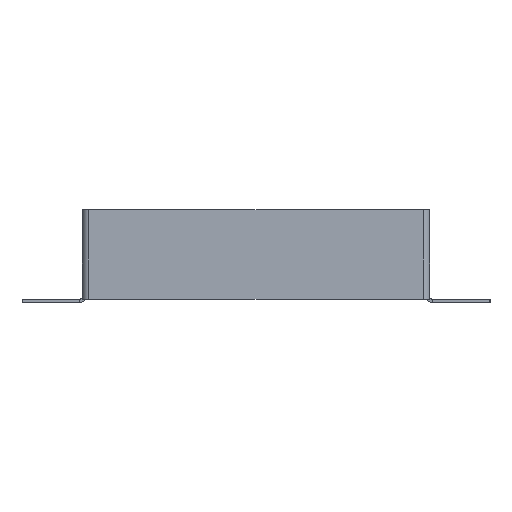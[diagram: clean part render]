
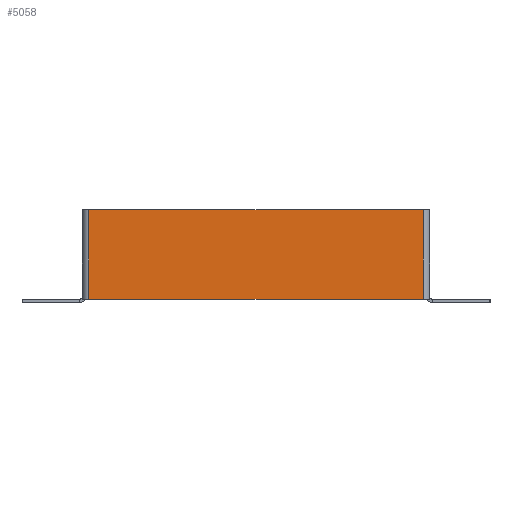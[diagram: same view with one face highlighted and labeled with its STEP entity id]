
A CAD part, front view. The second image highlights one B-rep face of the part: STEP entity #5058.
In plain terms, the highlighted planar face has unit normal (0, -1, 0).
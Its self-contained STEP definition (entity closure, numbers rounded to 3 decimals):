
#379 = VECTOR ( 'NONE', #1589, 1000. ) ;
#699 = DIRECTION ( 'NONE',  ( -1., 0., 0. ) ) ;
#733 = DIRECTION ( 'NONE',  ( 0., 1., 0. ) ) ;
#891 = CARTESIAN_POINT ( 'NONE',  ( -108., -2., -58. ) ) ;
#914 = CARTESIAN_POINT ( 'NONE',  ( 108., -2., -58. ) ) ;
#988 = LINE ( 'NONE', #7908, #3183 ) ;
#1332 = DIRECTION ( 'NONE',  ( 0., 0., 1. ) ) ;
#1589 = DIRECTION ( 'NONE',  ( 0., 0., -1. ) ) ;
#1815 = LINE ( 'NONE', #2436, #2231 ) ;
#2060 = CARTESIAN_POINT ( 'NONE',  ( -110., -2., -58. ) ) ;
#2145 = EDGE_LOOP ( 'NONE', ( #7057, #6376, #4803, #7036 ) ) ;
#2231 = VECTOR ( 'NONE', #6428, 1000. ) ;
#2272 = CARTESIAN_POINT ( 'NONE',  ( -108., -2., 0. ) ) ;
#2436 = CARTESIAN_POINT ( 'NONE',  ( -110., -2., 0. ) ) ;
#3183 = VECTOR ( 'NONE', #1332, 1000. ) ;
#3494 = VERTEX_POINT ( 'NONE', #6728 ) ;
#3659 = VERTEX_POINT ( 'NONE', #891 ) ;
#3735 = LINE ( 'NONE', #2060, #7152 ) ;
#3999 = EDGE_CURVE ( 'NONE', #7990, #3659, #7687, .T. ) ;
#4803 = ORIENTED_EDGE ( 'NONE', *, *, #5583, .T. ) ;
#5058 = ADVANCED_FACE ( 'NONE', ( #5088 ), #5999, .F. ) ;
#5088 = FACE_OUTER_BOUND ( 'NONE', #2145, .T. ) ;
#5583 = EDGE_CURVE ( 'NONE', #6496, #3494, #988, .T. ) ;
#5918 = CARTESIAN_POINT ( 'NONE',  ( -108., -2., 0. ) ) ;
#5999 = PLANE ( 'NONE',  #7766 ) ;
#6376 = ORIENTED_EDGE ( 'NONE', *, *, #7724, .F. ) ;
#6428 = DIRECTION ( 'NONE',  ( 1., 0., 0. ) ) ;
#6496 = VERTEX_POINT ( 'NONE', #914 ) ;
#6660 = DIRECTION ( 'NONE',  ( 0., 0., 1. ) ) ;
#6728 = CARTESIAN_POINT ( 'NONE',  ( 108., -2., 0. ) ) ;
#7036 = ORIENTED_EDGE ( 'NONE', *, *, #7483, .F. ) ;
#7057 = ORIENTED_EDGE ( 'NONE', *, *, #3999, .T. ) ;
#7152 = VECTOR ( 'NONE', #699, 1000. ) ;
#7380 = CARTESIAN_POINT ( 'NONE',  ( 0., -2., 0. ) ) ;
#7483 = EDGE_CURVE ( 'NONE', #7990, #3494, #1815, .T. ) ;
#7687 = LINE ( 'NONE', #2272, #379 ) ;
#7724 = EDGE_CURVE ( 'NONE', #6496, #3659, #3735, .T. ) ;
#7766 = AXIS2_PLACEMENT_3D ( 'NONE', #7380, #733, #6660 ) ;
#7908 = CARTESIAN_POINT ( 'NONE',  ( 108., -2., -58. ) ) ;
#7990 = VERTEX_POINT ( 'NONE', #5918 ) ;
